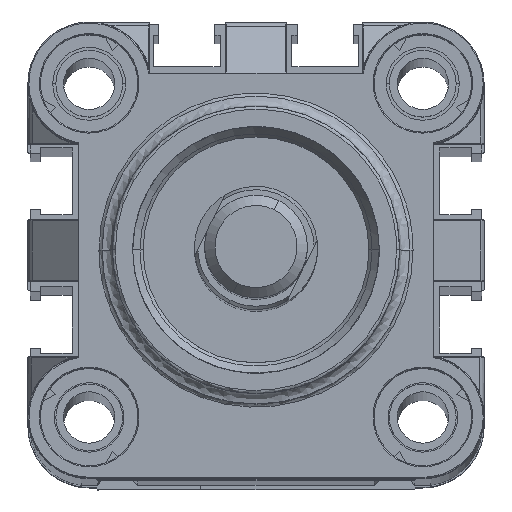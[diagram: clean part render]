
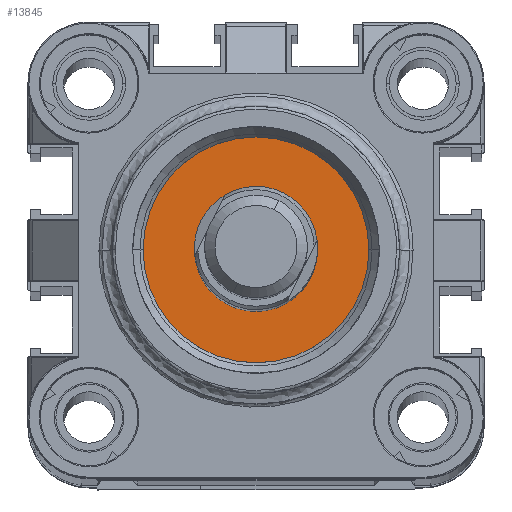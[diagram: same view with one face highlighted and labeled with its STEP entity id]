
A CAD part, top view. The second image highlights one B-rep face of the part: STEP entity #13845.
In plain terms, the highlighted planar face has unit normal (0, 0, 1).
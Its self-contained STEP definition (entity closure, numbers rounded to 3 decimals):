
#661 = CARTESIAN_POINT ( 'NONE',  ( 17.25, -17.25, 40.8 ) ) ;
#1214 = DIRECTION ( 'NONE',  ( 1., 0., 0. ) ) ;
#1411 = CIRCLE ( 'NONE', #4934, 6. ) ;
#2491 = ORIENTED_EDGE ( 'NONE', *, *, #12814, .T. ) ;
#3131 = EDGE_CURVE ( 'NONE', #18300, #17678, #1411, .T. ) ;
#4214 = EDGE_LOOP ( 'NONE', ( #6990, #15703 ) ) ;
#4274 = AXIS2_PLACEMENT_3D ( 'NONE', #13780, #15642, #16168 ) ;
#4934 = AXIS2_PLACEMENT_3D ( 'NONE', #661, #8500, #1214 ) ;
#4948 = ORIENTED_EDGE ( 'NONE', *, *, #10764, .T. ) ;
#6099 = EDGE_LOOP ( 'NONE', ( #4948, #2491 ) ) ;
#6990 = ORIENTED_EDGE ( 'NONE', *, *, #13700, .F. ) ;
#7230 = CIRCLE ( 'NONE', #13297, 11. ) ;
#7335 = CIRCLE ( 'NONE', #10307, 6. ) ;
#7422 = CARTESIAN_POINT ( 'NONE',  ( 17.25, -17.25, 40.8 ) ) ;
#7494 = DIRECTION ( 'NONE',  ( 0., 0., 1. ) ) ;
#7522 = DIRECTION ( 'NONE',  ( 1., 0., 0. ) ) ;
#8500 = DIRECTION ( 'NONE',  ( 0., 0., 1. ) ) ;
#8568 = CARTESIAN_POINT ( 'NONE',  ( 23.25, -17.25, 40.8 ) ) ;
#9670 = CARTESIAN_POINT ( 'NONE',  ( 11.25, -17.25, 40.8 ) ) ;
#10139 = VERTEX_POINT ( 'NONE', #16725 ) ;
#10307 = AXIS2_PLACEMENT_3D ( 'NONE', #12906, #12945, #12971 ) ;
#10436 = AXIS2_PLACEMENT_3D ( 'NONE', #11876, #11731, #11709 ) ;
#10764 = EDGE_CURVE ( 'NONE', #20777, #10139, #7230, .T. ) ;
#11709 = DIRECTION ( 'NONE',  ( 1., 0., 0. ) ) ;
#11731 = DIRECTION ( 'NONE',  ( 0., 0., 1. ) ) ;
#11876 = CARTESIAN_POINT ( 'NONE',  ( 17.25, -17.25, 40.8 ) ) ;
#12814 = EDGE_CURVE ( 'NONE', #10139, #20777, #13703, .T. ) ;
#12906 = CARTESIAN_POINT ( 'NONE',  ( 17.25, -17.25, 40.8 ) ) ;
#12945 = DIRECTION ( 'NONE',  ( 0., 0., 1. ) ) ;
#12971 = DIRECTION ( 'NONE',  ( 1., 0., 0. ) ) ;
#13297 = AXIS2_PLACEMENT_3D ( 'NONE', #7422, #7494, #7522 ) ;
#13700 = EDGE_CURVE ( 'NONE', #17678, #18300, #7335, .T. ) ;
#13703 = CIRCLE ( 'NONE', #10436, 11. ) ;
#13780 = CARTESIAN_POINT ( 'NONE',  ( 17.25, -17.25, 40.8 ) ) ;
#13845 = ADVANCED_FACE ( 'NONE', ( #13936, #18475 ), #14478, .T. ) ;
#13936 = FACE_BOUND ( 'NONE', #4214, .T. ) ;
#14478 = PLANE ( 'NONE',  #4274 ) ;
#15642 = DIRECTION ( 'NONE',  ( 0., 0., 1. ) ) ;
#15703 = ORIENTED_EDGE ( 'NONE', *, *, #3131, .F. ) ;
#16168 = DIRECTION ( 'NONE',  ( 1., 0., 0. ) ) ;
#16725 = CARTESIAN_POINT ( 'NONE',  ( 6.25, -17.25, 40.8 ) ) ;
#17678 = VERTEX_POINT ( 'NONE', #8568 ) ;
#18300 = VERTEX_POINT ( 'NONE', #9670 ) ;
#18475 = FACE_OUTER_BOUND ( 'NONE', #6099, .T. ) ;
#20777 = VERTEX_POINT ( 'NONE', #21117 ) ;
#21117 = CARTESIAN_POINT ( 'NONE',  ( 28.25, -17.25, 40.8 ) ) ;
